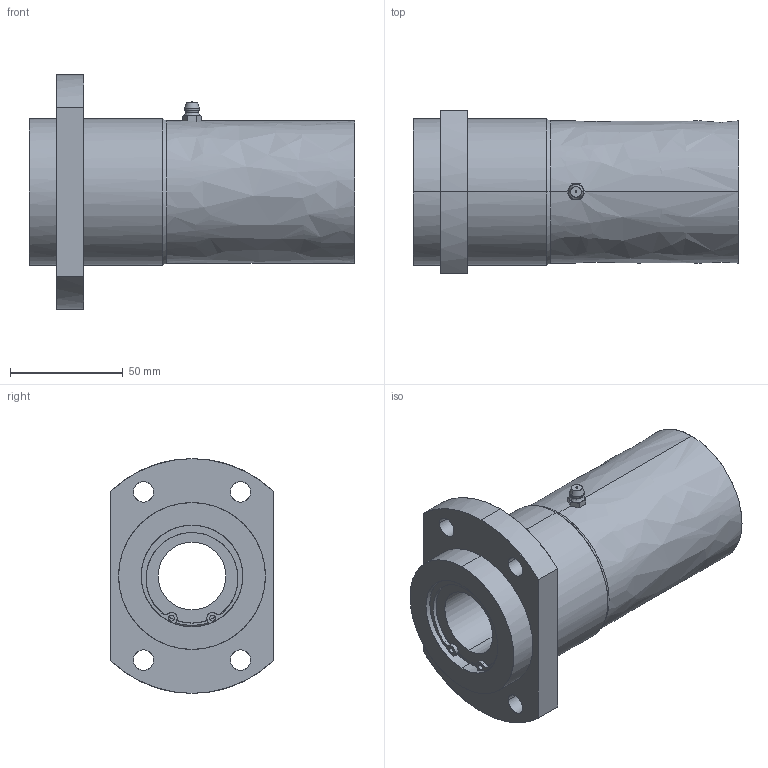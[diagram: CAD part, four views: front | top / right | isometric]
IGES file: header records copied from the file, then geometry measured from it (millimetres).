
Global section: file name: No Iges File Name specified; native system: AutoDesk Inventor R10; preprocessor: AutoDesk Inventor Iges Exporter R10; author: No Author specified; organization: No Organization specified; date: 20101214.135302; units: millimetre
Bounding box: 144 x 72 x 104 mm (x, y, z)
Surface area: 65443.7 mm2 (no closed solid volume)
Topology: 0 solids, 0 shells, 158 faces, 1110 edges, 1108 vertices
Faces by surface type: bspline 158
